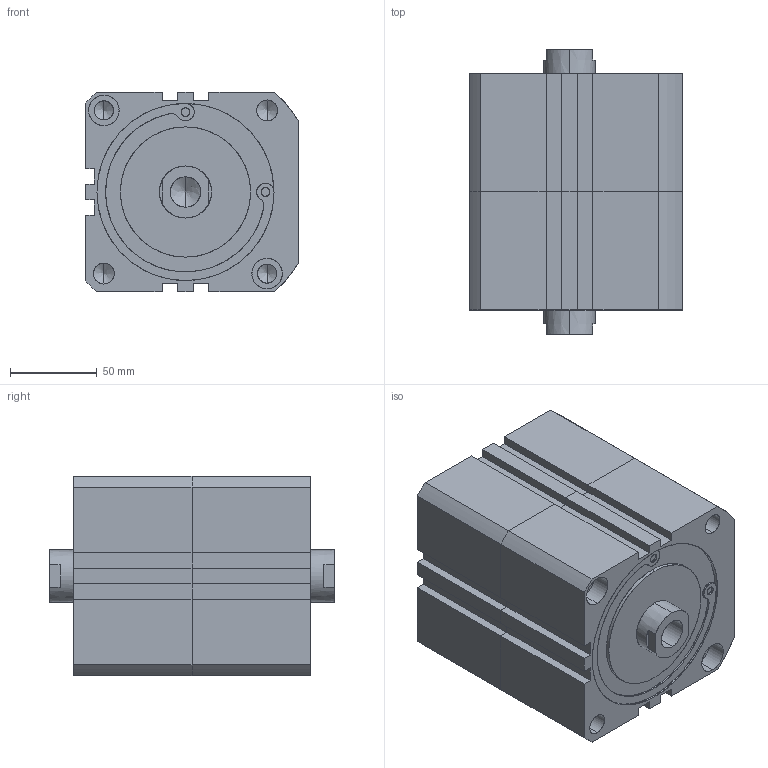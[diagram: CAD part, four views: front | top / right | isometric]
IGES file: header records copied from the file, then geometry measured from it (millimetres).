
Start section: SolidWorks IGES file using analytic representation for surfaces
Global section: file name: C:\Users\Toshiba\Desktop\XCD7-100-10-10(L).IGS; native system: SolidWorks 2014; preprocessor: SolidWorks 2014; author: Toshiba; date: 160805.094110; units: millimetre
Bounding box: 122.5 x 164 x 115 mm (x, y, z)
Surface area: 155182.2 mm2 (no closed solid volume)
Topology: 0 solids, 0 shells, 222 faces, 3726 edges, 3698 vertices
Faces by surface type: revolution 130, bspline 92
